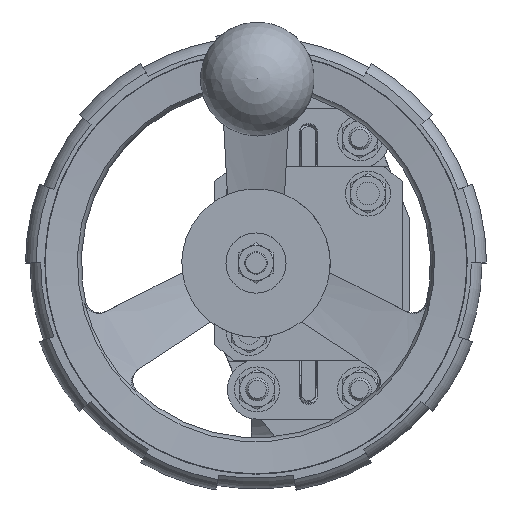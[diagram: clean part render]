
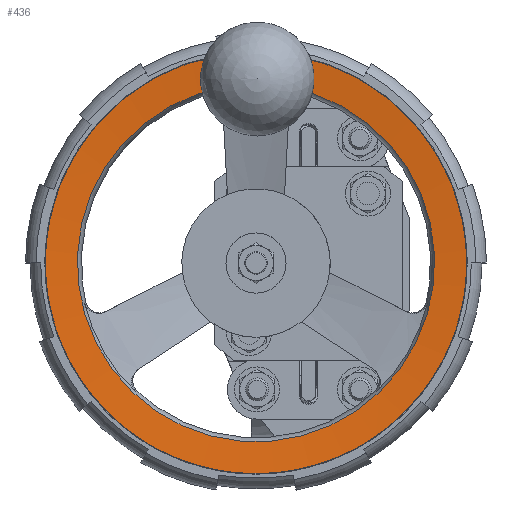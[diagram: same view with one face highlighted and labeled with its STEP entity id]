
A CAD part, top view. The second image highlights one B-rep face of the part: STEP entity #436.
In plain terms, the highlighted conical face has half-angle 85 degrees and reference radius 92.5 mm.
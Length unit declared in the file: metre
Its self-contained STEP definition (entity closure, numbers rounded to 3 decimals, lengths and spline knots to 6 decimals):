
#436 = ADVANCED_FACE( '', ( #1690 ), #1691, .F. );
#1690 = FACE_OUTER_BOUND( '', #5376, .T. );
#1691 = CONICAL_SURFACE( '', #5377, 0.0925, 1.484 );
#5376 = EDGE_LOOP( '', ( #10082, #10083, #10084, #10085, #10086, #10087 ) );
#5377 = AXIS2_PLACEMENT_3D( '', #10088, #10089, #10090 );
#10082 = ORIENTED_EDGE( '', *, *, #14007, .F. );
#10083 = ORIENTED_EDGE( '', *, *, #14010, .T. );
#10084 = ORIENTED_EDGE( '', *, *, #14011, .T. );
#10085 = ORIENTED_EDGE( '', *, *, #14012, .T. );
#10086 = ORIENTED_EDGE( '', *, *, #14013, .T. );
#10087 = ORIENTED_EDGE( '', *, *, #14014, .T. );
#10088 = CARTESIAN_POINT( '', ( -0.023, 0., 0.393744 ) );
#10089 = DIRECTION( '', ( 0., 0., 1. ) );
#10090 = DIRECTION( '', ( 0., -1., 0. ) );
#14007 = EDGE_CURVE( '', #16513, #16514, #16515, .T. );
#14010 = EDGE_CURVE( '', #16513, #16518, #16519, .T. );
#14011 = EDGE_CURVE( '', #16518, #16520, #16521, .T. );
#14012 = EDGE_CURVE( '', #16520, #16522, #16523, .T. );
#14013 = EDGE_CURVE( '', #16522, #16524, #16525, .T. );
#14014 = EDGE_CURVE( '', #16524, #16514, #16526, .T. );
#16513 = VERTEX_POINT( '', #21161 );
#16514 = VERTEX_POINT( '', #21162 );
#16515 = CIRCLE( '', #21163, 0.0925 );
#16518 = VERTEX_POINT( '', #21168 );
#16519 = B_SPLINE_CURVE_WITH_KNOTS( '', 3, ( #21169, #21170, #21171, #21172 ), .UNSPECIFIED., .F., .F., ( 4, 4 ), ( 0.012702, 0.024396 ), .UNSPECIFIED. );
#16520 = VERTEX_POINT( '', #21173 );
#16521 = B_SPLINE_CURVE_WITH_KNOTS( '', 3, ( #21174, #21175, #21176, #21177, #21178, #21179 ), .UNSPECIFIED., .F., .F., ( 4, 2, 4 ), ( 0.019436, 0.020778, 0.022121 ), .UNSPECIFIED. );
#16522 = VERTEX_POINT( '', #21180 );
#16523 = CIRCLE( '', #21181, 0.07828 );
#16524 = VERTEX_POINT( '', #21182 );
#16525 = B_SPLINE_CURVE_WITH_KNOTS( '', 3, ( #21183, #21184, #21185, #21186 ), .UNSPECIFIED., .F., .F., ( 4, 4 ), ( 0.000002, 0.002702 ), .UNSPECIFIED. );
#16526 = B_SPLINE_CURVE_WITH_KNOTS( '', 3, ( #21187, #21188, #21189, #21190 ), .UNSPECIFIED., .F., .F., ( 4, 4 ), ( 0.021218, 0.032913 ), .UNSPECIFIED. );
#21161 = CARTESIAN_POINT( '', ( -0.0105, 0.091652, 0.393744 ) );
#21162 = CARTESIAN_POINT( '', ( -0.0355, 0.091652, 0.393744 ) );
#21163 = AXIS2_PLACEMENT_3D( '', #26915, #26916, #26917 );
#21168 = CARTESIAN_POINT( '', ( -0.0105, 0.080001, 0.392735 ) );
#21169 = CARTESIAN_POINT( '', ( -0.0105, 0.091652, 0.393744 ) );
#21170 = CARTESIAN_POINT( '', ( -0.0105, 0.087768, 0.393407 ) );
#21171 = CARTESIAN_POINT( '', ( -0.0105, 0.083885, 0.393071 ) );
#21172 = CARTESIAN_POINT( '', ( -0.0105, 0.080001, 0.392735 ) );
#21173 = CARTESIAN_POINT( '', ( -0.01079, 0.077322, 0.3925 ) );
#21174 = CARTESIAN_POINT( '', ( -0.0105, 0.080001, 0.392735 ) );
#21175 = CARTESIAN_POINT( '', ( -0.0105, 0.079555, 0.392697 ) );
#21176 = CARTESIAN_POINT( '', ( -0.010524, 0.079108, 0.392658 ) );
#21177 = CARTESIAN_POINT( '', ( -0.010621, 0.078211, 0.392579 ) );
#21178 = CARTESIAN_POINT( '', ( -0.010693, 0.077764, 0.392539 ) );
#21179 = CARTESIAN_POINT( '', ( -0.01079, 0.077322, 0.3925 ) );
#21180 = CARTESIAN_POINT( '', ( -0.03521, 0.077322, 0.3925 ) );
#21181 = AXIS2_PLACEMENT_3D( '', #26920, #26921, #26922 );
#21182 = CARTESIAN_POINT( '', ( -0.0355, 0.080001, 0.392735 ) );
#21183 = CARTESIAN_POINT( '', ( -0.03521, 0.077322, 0.3925 ) );
#21184 = CARTESIAN_POINT( '', ( -0.035404, 0.078211, 0.392579 ) );
#21185 = CARTESIAN_POINT( '', ( -0.0355, 0.079104, 0.392658 ) );
#21186 = CARTESIAN_POINT( '', ( -0.0355, 0.080001, 0.392735 ) );
#21187 = CARTESIAN_POINT( '', ( -0.0355, 0.080001, 0.392735 ) );
#21188 = CARTESIAN_POINT( '', ( -0.0355, 0.083885, 0.393071 ) );
#21189 = CARTESIAN_POINT( '', ( -0.0355, 0.087768, 0.393407 ) );
#21190 = CARTESIAN_POINT( '', ( -0.0355, 0.091652, 0.393744 ) );
#26915 = CARTESIAN_POINT( '', ( -0.023, 0., 0.393744 ) );
#26916 = DIRECTION( '', ( 0., 0., -1. ) );
#26917 = DIRECTION( '', ( 0., 1., 0. ) );
#26920 = CARTESIAN_POINT( '', ( -0.023, 0., 0.3925 ) );
#26921 = DIRECTION( '', ( 0., 0., -1. ) );
#26922 = DIRECTION( '', ( 0., 1., 0. ) );
